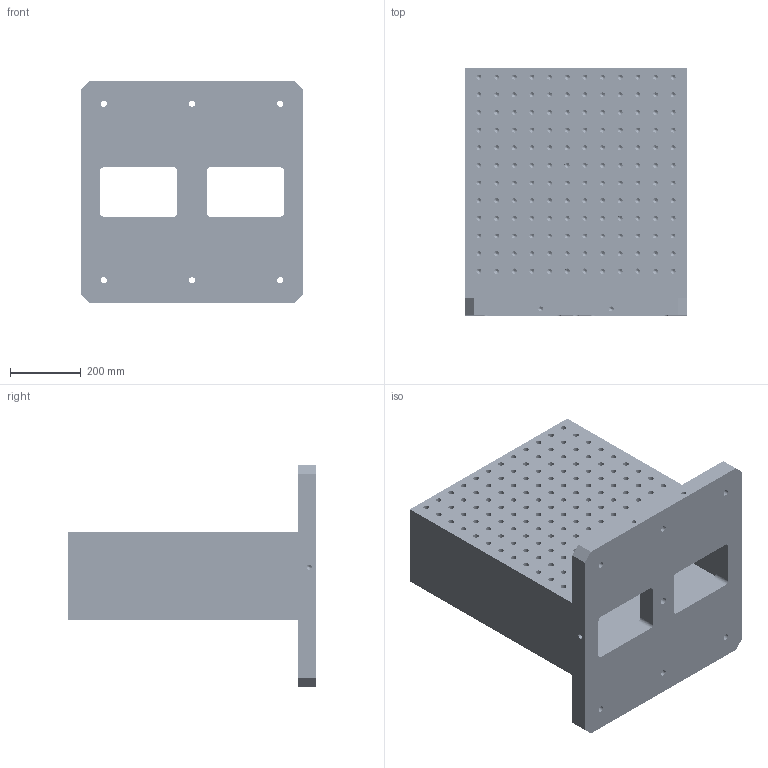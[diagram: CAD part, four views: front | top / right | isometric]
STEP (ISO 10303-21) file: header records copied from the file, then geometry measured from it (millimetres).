
FILE_DESCRIPTION((''),'2;1');
FILE_NAME('FG_WH_TOMB_RCG16NP005','2026-05-20T17:08:11',('Admin'),(''),'CREO PARAMETRIC BY PTC INC, 2025010','CREO PARAMETRIC BY PTC INC, 2025010','');
FILE_SCHEMA(('CONFIG_CONTROL_DESIGN'));
Products named in the file (1): FG_WH_TOMB_RCG16NP005
Bounding box: 630 x 700 x 630 mm (x, y, z)
Volume: 63223342.9 mm3; surface area: 4034598.7 mm2
Topology: 1 solids, 293 shells, 3012 faces, 7262 edges, 4551 vertices
Faces by surface type: cylinder 1794, plane 636, cone 582
Entity records: 85115 total; most frequent: DIRECTION 16878, CARTESIAN_POINT 14244, ORIENTED_EDGE 12192, AXIS2_PLACEMENT_3D 7185, EDGE_CURVE 6680, VERTEX_POINT 4551, CIRCLE 4172, EDGE_LOOP 3915
